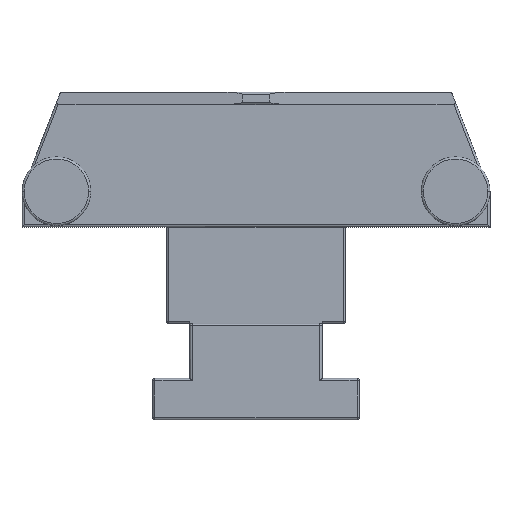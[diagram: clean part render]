
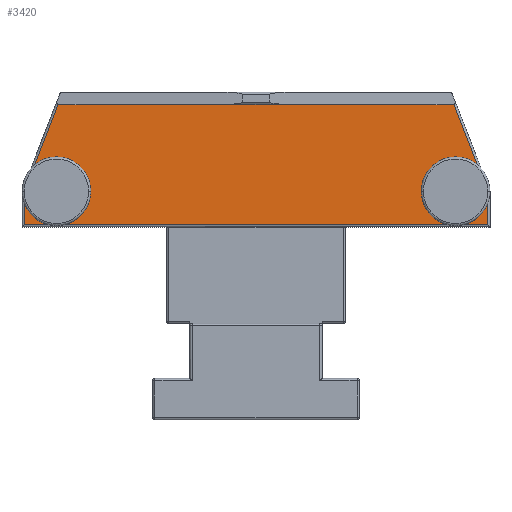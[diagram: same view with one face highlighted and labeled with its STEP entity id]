
A CAD part, top view. The second image highlights one B-rep face of the part: STEP entity #3420.
In plain terms, the highlighted planar face has unit normal (0, 0, 1).
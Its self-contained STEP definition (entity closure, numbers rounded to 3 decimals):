
#23 = EDGE_LOOP ( 'NONE', ( #3130, #93, #52, #181, #2201, #1636, #168, #2084 ) ) ;
#50 = DIRECTION ( 'NONE',  ( -0.362, 0.932, 0. ) ) ;
#52 = ORIENTED_EDGE ( 'NONE', *, *, #3007, .T. ) ;
#87 = VERTEX_POINT ( 'NONE', #2959 ) ;
#93 = ORIENTED_EDGE ( 'NONE', *, *, #2303, .T. ) ;
#117 = DIRECTION ( 'NONE',  ( 0., 1., 0. ) ) ;
#130 = CARTESIAN_POINT ( 'NONE',  ( 71.581, 20.8, 5. ) ) ;
#131 = CARTESIAN_POINT ( 'NONE',  ( -79., -11.5, 5. ) ) ;
#168 = ORIENTED_EDGE ( 'NONE', *, *, #1875, .T. ) ;
#181 = ORIENTED_EDGE ( 'NONE', *, *, #3558, .T. ) ;
#301 = VECTOR ( 'NONE', #50, 1000. ) ;
#365 = AXIS2_PLACEMENT_3D ( 'NONE', #3231, #1678, #2590 ) ;
#423 = VERTEX_POINT ( 'NONE', #3449 ) ;
#433 = CARTESIAN_POINT ( 'NONE',  ( -72.5, -11.5, 5. ) ) ;
#442 = CIRCLE ( 'NONE', #365, 6.5 ) ;
#445 = DIRECTION ( 'NONE',  ( 0., 0., -1. ) ) ;
#530 = CIRCLE ( 'NONE', #3560, 0.8 ) ;
#612 = VERTEX_POINT ( 'NONE', #2615 ) ;
#624 = CIRCLE ( 'NONE', #3597, 0.8 ) ;
#647 = AXIS2_PLACEMENT_3D ( 'NONE', #2749, #1533, #2731 ) ;
#650 = VERTEX_POINT ( 'NONE', #1076 ) ;
#725 = CIRCLE ( 'NONE', #3241, 6.5 ) ;
#739 = DIRECTION ( 'NONE',  ( -1., 0., 0. ) ) ;
#774 = AXIS2_PLACEMENT_3D ( 'NONE', #433, #1370, #117 ) ;
#788 = DIRECTION ( 'NONE',  ( 0., 1., 0. ) ) ;
#878 = DIRECTION ( 'NONE',  ( 0., 1., 0. ) ) ;
#986 = ORIENTED_EDGE ( 'NONE', *, *, #2272, .F. ) ;
#987 = EDGE_CURVE ( 'NONE', #3721, #3206, #725, .T. ) ;
#1041 = DIRECTION ( 'NONE',  ( 0., 1., 0. ) ) ;
#1076 = CARTESIAN_POINT ( 'NONE',  ( -84.2, -23.7, 5. ) ) ;
#1135 = VERTEX_POINT ( 'NONE', #2665 ) ;
#1231 = CARTESIAN_POINT ( 'NONE',  ( 84.2, -24.5, 5. ) ) ;
#1295 = VERTEX_POINT ( 'NONE', #1550 ) ;
#1370 = DIRECTION ( 'NONE',  ( 0., 0., 1. ) ) ;
#1533 = DIRECTION ( 'NONE',  ( 0., 0., -1. ) ) ;
#1550 = CARTESIAN_POINT ( 'NONE',  ( 84.2, -23.7, 5. ) ) ;
#1587 = DIRECTION ( 'NONE',  ( -0.362, -0.932, 0. ) ) ;
#1597 = CARTESIAN_POINT ( 'NONE',  ( -84.2, -24.5, 5. ) ) ;
#1627 = DIRECTION ( 'NONE',  ( 0., 1., 0. ) ) ;
#1636 = ORIENTED_EDGE ( 'NONE', *, *, #3365, .T. ) ;
#1677 = AXIS2_PLACEMENT_3D ( 'NONE', #3023, #2396, #878 ) ;
#1678 = DIRECTION ( 'NONE',  ( 0., 0., 1. ) ) ;
#1708 = DIRECTION ( 'NONE',  ( 0., 0., 1. ) ) ;
#1738 = CIRCLE ( 'NONE', #1677, 6.5 ) ;
#1775 = LINE ( 'NONE', #1597, #2497 ) ;
#1787 = ORIENTED_EDGE ( 'NONE', *, *, #987, .F. ) ;
#1812 = EDGE_CURVE ( 'NONE', #2196, #423, #1738, .T. ) ;
#1855 = CARTESIAN_POINT ( 'NONE',  ( -66.313, 34.344, 5. ) ) ;
#1875 = EDGE_CURVE ( 'NONE', #3435, #3956, #2648, .T. ) ;
#1968 = EDGE_LOOP ( 'NONE', ( #4010, #986 ) ) ;
#2029 = EDGE_CURVE ( 'NONE', #87, #1135, #2643, .T. ) ;
#2069 = CIRCLE ( 'NONE', #774, 6.5 ) ;
#2084 = ORIENTED_EDGE ( 'NONE', *, *, #3111, .T. ) ;
#2160 = FACE_OUTER_BOUND ( 'NONE', #23, .T. ) ;
#2196 = VERTEX_POINT ( 'NONE', #131 ) ;
#2200 = EDGE_CURVE ( 'NONE', #3206, #3721, #442, .T. ) ;
#2201 = ORIENTED_EDGE ( 'NONE', *, *, #2342, .T. ) ;
#2254 = FACE_BOUND ( 'NONE', #1968, .T. ) ;
#2272 = EDGE_CURVE ( 'NONE', #423, #2196, #2069, .T. ) ;
#2302 = LINE ( 'NONE', #3849, #2939 ) ;
#2303 = EDGE_CURVE ( 'NONE', #1135, #3540, #530, .T. ) ;
#2342 = EDGE_CURVE ( 'NONE', #650, #1295, #2302, .T. ) ;
#2396 = DIRECTION ( 'NONE',  ( 0., 0., 1. ) ) ;
#2397 = LINE ( 'NONE', #1855, #2591 ) ;
#2416 = DIRECTION ( 'NONE',  ( 0., 1., 0. ) ) ;
#2426 = PLANE ( 'NONE',  #647 ) ;
#2450 = VECTOR ( 'NONE', #2416, 1000. ) ;
#2470 = CARTESIAN_POINT ( 'NONE',  ( 88.646, -23.082, 5. ) ) ;
#2497 = VECTOR ( 'NONE', #2538, 1000. ) ;
#2502 = ORIENTED_EDGE ( 'NONE', *, *, #2200, .F. ) ;
#2538 = DIRECTION ( 'NONE',  ( 0., -1., 0. ) ) ;
#2573 = CARTESIAN_POINT ( 'NONE',  ( 85., 20., 5. ) ) ;
#2590 = DIRECTION ( 'NONE',  ( 0., 1., 0. ) ) ;
#2591 = VECTOR ( 'NONE', #1587, 1000. ) ;
#2615 = CARTESIAN_POINT ( 'NONE',  ( -84.2, -11.65, 5. ) ) ;
#2643 = LINE ( 'NONE', #2573, #2944 ) ;
#2648 = LINE ( 'NONE', #2470, #301 ) ;
#2663 = EDGE_LOOP ( 'NONE', ( #2502, #1787 ) ) ;
#2665 = CARTESIAN_POINT ( 'NONE',  ( -71.581, 20., 5. ) ) ;
#2678 = LINE ( 'NONE', #1231, #2450 ) ;
#2715 = CARTESIAN_POINT ( 'NONE',  ( 84.2, -11.65, 5. ) ) ;
#2731 = DIRECTION ( 'NONE',  ( 0., 1., 0. ) ) ;
#2749 = CARTESIAN_POINT ( 'NONE',  ( 85., -24.5, 5. ) ) ;
#2889 = CARTESIAN_POINT ( 'NONE',  ( -71.581, 20.8, 5. ) ) ;
#2916 = DIRECTION ( 'NONE',  ( 1., 0., 0. ) ) ;
#2934 = CARTESIAN_POINT ( 'NONE',  ( 66., -11.5, 5. ) ) ;
#2939 = VECTOR ( 'NONE', #2916, 1000. ) ;
#2944 = VECTOR ( 'NONE', #739, 1000. ) ;
#2959 = CARTESIAN_POINT ( 'NONE',  ( 71.581, 20., 5. ) ) ;
#2968 = CARTESIAN_POINT ( 'NONE',  ( 79., -11.5, 5. ) ) ;
#3007 = EDGE_CURVE ( 'NONE', #3540, #612, #2397, .T. ) ;
#3023 = CARTESIAN_POINT ( 'NONE',  ( -72.5, -11.5, 5. ) ) ;
#3089 = FACE_BOUND ( 'NONE', #2663, .T. ) ;
#3111 = EDGE_CURVE ( 'NONE', #3956, #87, #624, .T. ) ;
#3130 = ORIENTED_EDGE ( 'NONE', *, *, #2029, .T. ) ;
#3206 = VERTEX_POINT ( 'NONE', #2934 ) ;
#3231 = CARTESIAN_POINT ( 'NONE',  ( 72.5, -11.5, 5. ) ) ;
#3241 = AXIS2_PLACEMENT_3D ( 'NONE', #3305, #1708, #788 ) ;
#3305 = CARTESIAN_POINT ( 'NONE',  ( 72.5, -11.5, 5. ) ) ;
#3365 = EDGE_CURVE ( 'NONE', #1295, #3435, #2678, .T. ) ;
#3420 = ADVANCED_FACE ( 'NONE', ( #3089, #2160, #2254 ), #2426, .F. ) ;
#3435 = VERTEX_POINT ( 'NONE', #2715 ) ;
#3437 = CARTESIAN_POINT ( 'NONE',  ( -71.87, 20.054, 5. ) ) ;
#3449 = CARTESIAN_POINT ( 'NONE',  ( -66., -11.5, 5. ) ) ;
#3540 = VERTEX_POINT ( 'NONE', #3437 ) ;
#3558 = EDGE_CURVE ( 'NONE', #612, #650, #1775, .T. ) ;
#3560 = AXIS2_PLACEMENT_3D ( 'NONE', #2889, #3860, #1041 ) ;
#3597 = AXIS2_PLACEMENT_3D ( 'NONE', #130, #445, #1627 ) ;
#3717 = CARTESIAN_POINT ( 'NONE',  ( 71.87, 20.054, 5. ) ) ;
#3721 = VERTEX_POINT ( 'NONE', #2968 ) ;
#3849 = CARTESIAN_POINT ( 'NONE',  ( 85., -23.7, 5. ) ) ;
#3860 = DIRECTION ( 'NONE',  ( 0., 0., -1. ) ) ;
#3956 = VERTEX_POINT ( 'NONE', #3717 ) ;
#4010 = ORIENTED_EDGE ( 'NONE', *, *, #1812, .F. ) ;
